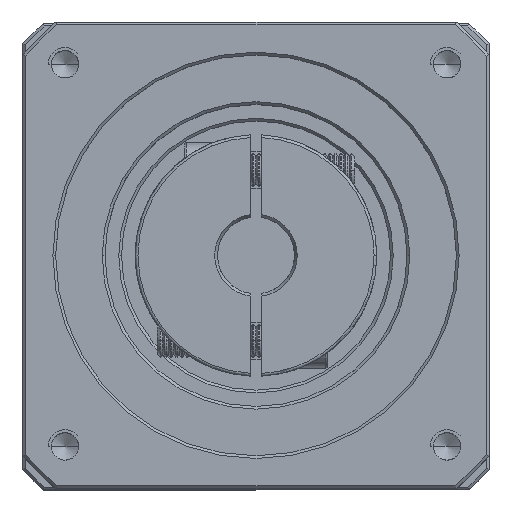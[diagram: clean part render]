
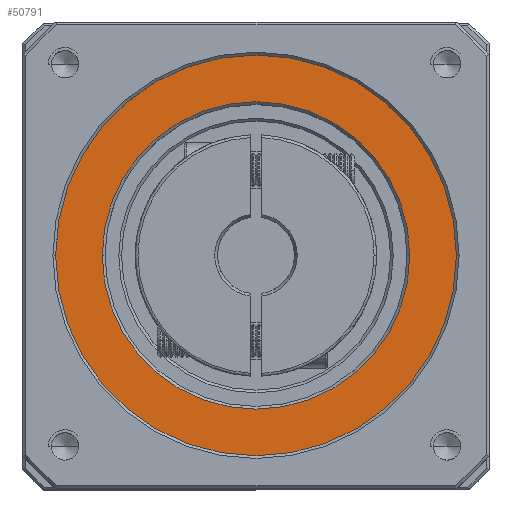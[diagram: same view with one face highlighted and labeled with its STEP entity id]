
A CAD part, top view. The second image highlights one B-rep face of the part: STEP entity #50791.
In plain terms, the highlighted planar face has unit normal (0, 0, 1).
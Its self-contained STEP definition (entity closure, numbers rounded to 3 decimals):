
#1707 = ORIENTED_EDGE ( 'NONE', *, *, #121723, .T. ) ;
#4557 = ORIENTED_EDGE ( 'NONE', *, *, #46334, .T. ) ;
#5606 = ORIENTED_EDGE ( 'NONE', *, *, #77836, .T. ) ;
#11168 = CARTESIAN_POINT ( 'NONE',  ( -25.656, 13.979, -5.829 ) ) ;
#12870 = DIRECTION ( 'NONE',  ( 0., 0., 1. ) ) ;
#13869 = CIRCLE ( 'NONE', #118509, 28. ) ;
#14844 = EDGE_CURVE ( 'NONE', #116826, #27472, #23248, .T. ) ;
#21360 = EDGE_LOOP ( 'NONE', ( #1707, #4557 ) ) ;
#22042 = ORIENTED_EDGE ( 'NONE', *, *, #14844, .T. ) ;
#23248 = CIRCLE ( 'NONE', #49320, 36.5 ) ;
#23274 = DIRECTION ( 'NONE',  ( 0., 0., 1. ) ) ;
#27472 = VERTEX_POINT ( 'NONE', #108614 ) ;
#34079 = FACE_OUTER_BOUND ( 'NONE', #73838, .T. ) ;
#37702 = DIRECTION ( 'NONE',  ( 0., 0., 1. ) ) ;
#41950 = VERTEX_POINT ( 'NONE', #115027 ) ;
#46334 = EDGE_CURVE ( 'NONE', #41950, #109840, #13869, .T. ) ;
#49320 = AXIS2_PLACEMENT_3D ( 'NONE', #52375, #23274, #72739 ) ;
#50791 = ADVANCED_FACE ( 'NONE', ( #34079, #54236 ), #87586, .T. ) ;
#51589 = DIRECTION ( 'NONE',  ( 1., 0., 0. ) ) ;
#52375 = CARTESIAN_POINT ( 'NONE',  ( -53.656, 13.979, -5.829 ) ) ;
#53269 = CARTESIAN_POINT ( 'NONE',  ( -53.656, 13.979, -5.829 ) ) ;
#54236 = FACE_BOUND ( 'NONE', #21360, .T. ) ;
#55636 = CIRCLE ( 'NONE', #97755, 28. ) ;
#56793 = DIRECTION ( 'NONE',  ( 1., 0., 0. ) ) ;
#62722 = CARTESIAN_POINT ( 'NONE',  ( -17.156, 13.979, -5.829 ) ) ;
#67621 = CARTESIAN_POINT ( 'NONE',  ( -53.656, 13.979, -5.829 ) ) ;
#67713 = CARTESIAN_POINT ( 'NONE',  ( -53.656, 13.979, -5.829 ) ) ;
#72739 = DIRECTION ( 'NONE',  ( 1., 0., 0. ) ) ;
#72799 = DIRECTION ( 'NONE',  ( 0., 0., -1. ) ) ;
#73838 = EDGE_LOOP ( 'NONE', ( #22042, #5606 ) ) ;
#77836 = EDGE_CURVE ( 'NONE', #27472, #116826, #89243, .T. ) ;
#82387 = DIRECTION ( 'NONE',  ( 1., 0., 0. ) ) ;
#87586 = PLANE ( 'NONE',  #110188 ) ;
#89243 = CIRCLE ( 'NONE', #127222, 36.5 ) ;
#90271 = CARTESIAN_POINT ( 'NONE',  ( -53.656, 13.979, -5.829 ) ) ;
#97755 = AXIS2_PLACEMENT_3D ( 'NONE', #53269, #72799, #51589 ) ;
#108614 = CARTESIAN_POINT ( 'NONE',  ( -90.156, 13.979, -5.829 ) ) ;
#109840 = VERTEX_POINT ( 'NONE', #11168 ) ;
#110188 = AXIS2_PLACEMENT_3D ( 'NONE', #67621, #37702, #56793 ) ;
#115027 = CARTESIAN_POINT ( 'NONE',  ( -81.656, 13.979, -5.829 ) ) ;
#116391 = DIRECTION ( 'NONE',  ( 1., 0., 0. ) ) ;
#116826 = VERTEX_POINT ( 'NONE', #62722 ) ;
#117253 = DIRECTION ( 'NONE',  ( 0., 0., -1. ) ) ;
#118509 = AXIS2_PLACEMENT_3D ( 'NONE', #67713, #117253, #116391 ) ;
#121723 = EDGE_CURVE ( 'NONE', #109840, #41950, #55636, .T. ) ;
#127222 = AXIS2_PLACEMENT_3D ( 'NONE', #90271, #12870, #82387 ) ;
